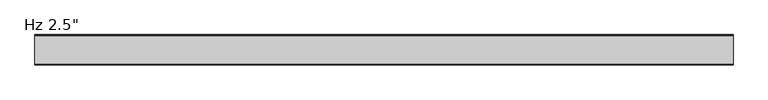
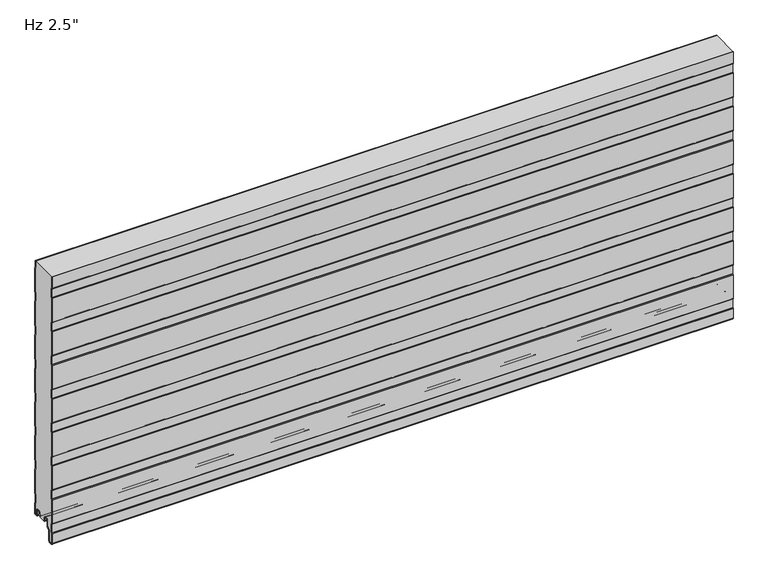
"""IFC4 building model written with IfcOpenShell, lengths in millimetres: plate geometry."""

from ifc_helpers import new_model, si_unit, point, frame, frame_2d, origin, place, context, project, spatial, polyline, circle_curve, trimmed, segment, composite_curve, outline, extrude, source, transform, mapped, element, save
from ifc_brep_helpers import plane_surface, cylinder_surface, revolved_surface, advanced_brep


def plate_57a42e4e(model_context):
    return source(origin(), model_context, "Body", "SolidModel", [
        advanced_brep(
        [(-730.0, -17.0015368, 2.0313088), (-730.0, -18.00154, 1.0313116), (-730.0, -19.0015314, 2.0313088), (-730.0, -19.0015314, 6.0315125), (-730.0, -18.0015368, 6.0315125), (-730.0, -18.0015368, 8.7237223), (-730.0, -14.7015411, 12.023718), (-730.0, -10.3015499, 12.023718), (-730.0, -7.0015544, 8.7237225), (-730.0, -7.0015544, -1.6962564), (-730.0, -5.2315602, -3.4662506), (-730.0, -1.0000126, -3.4662506), (-730.0, -1.0000126, 21.034026), (-730.0, -2.2002516, 22.4196686), (-730.0, -2.2002516, 41.7948349), (-730.0, -1.0000209, 43.1804679), (-730.0, -1.0000209, 97.2338833), (-730.0, -2.2002516, 98.6195162), (-730.0, -2.2002516, 117.9946825), (-730.0, -1.0000209, 119.3803155), (-730.0, -1.0000209, 173.4337309), (-730.0, -2.2002516, 174.8193638), (-730.0, -2.2002516, 194.1945301), (-730.0, -1.0000209, 195.5801631), (-730.0, -1.0000209, 249.6335785), (-730.0, -2.2002516, 251.0192114), (-730.0, -2.2002516, 270.3943777), (-730.0, -1.0000209, 271.7800107), (-730.0, -1.0000209, 325.8334261), (-730.0, -2.2002516, 327.219059), (-730.0, -2.2002516, 346.5942253), (-730.0, -1.0000209, 347.9798583), (-730.0, -1.0000209, 402.0332737), (-730.0, -2.2002516, 403.4189066), (-730.0, -2.2002516, 422.7940729), (-730.0, -1.0000209, 424.1797059), (-730.0, -1.0000209, 478.2331213), (-730.0, -2.2002516, 479.6187542), (-730.0, -2.2002516, 498.9939205), (-730.0, -1.0000209, 500.3795535), (-730.0, -1.0000209, 554.4329689), (-730.0, -2.2002516, 555.8186018), (-730.0, -2.2002516, 571.2), (-730.0, -1.2002516, 571.2), (-730.0, -1.2002516, 556.1914823), (-730.0, -0.3418094, 555.2004346), (-730.0, -2.09e-05, 554.2838177), (-730.0, -2.09e-05, 500.5287046), (-730.0, -0.3418094, 499.6120877), (-730.0, -1.2002516, 498.6210401), (-730.0, -1.2002516, 479.9916347), (-730.0, -0.3418094, 479.000587), (-730.0, -2.09e-05, 478.0839701), (-730.0, -2.09e-05, 424.328857), (-730.0, -0.3418094, 423.4122401), (-730.0, -1.2002516, 422.4211925), (-730.0, -1.2002516, 403.7917871), (-730.0, -0.3418094, 402.8007394), (-730.0, -2.09e-05, 401.8841225), (-730.0, -2.09e-05, 348.1290094), (-730.0, -0.3418094, 347.2123925), (-730.0, -1.2002516, 346.2213449), (-730.0, -1.2002516, 327.5919395), (-730.0, -0.3418094, 326.6008918), (-730.0, -2.09e-05, 325.6842749), (-730.0, -2.09e-05, 271.9291618), (-730.0, -0.3418094, 271.0125449), (-730.0, -1.2002516, 270.0214973), (-730.0, -1.2002516, 251.3920919), (-730.0, -0.3418094, 250.4010442), (-730.0, -2.09e-05, 249.4844273), (-730.0, -2.09e-05, 195.7293142), (-730.0, -0.3418094, 194.8126973), (-730.0, -1.2002516, 193.8216497), (-730.0, -1.2002516, 175.1922443), (-730.0, -0.3418094, 174.2011966), (-730.0, -2.09e-05, 173.2845797), (-730.0, -2.09e-05, 119.5294666), (-730.0, -0.3418094, 118.6128497), (-730.0, -1.2002516, 117.6218021), (-730.0, -1.2002516, 98.9923967), (-730.0, -0.3418094, 98.001349), (-730.0, -2.09e-05, 97.0847321), (-730.0, -2.09e-05, 43.329619), (-730.0, -0.3418094, 42.4130021), (-730.0, -1.2002516, 41.4219545), (-730.0, -1.2002516, 22.7925491), (-730.0, -0.3418094, 21.8015014), (-730.0, -2.09e-05, 20.8847931), (-730.0, -1.26e-05, -3.0662545), (-730.0, -1.4000087, -4.4662506), (-730.0, -5.2315602, -4.4662506), (-730.0, -8.0015544, -1.6962564), (-730.0, -8.0015544, 8.7237225), (-730.0, -10.3015499, 11.023718), (-730.0, -14.7015411, 11.023718), (-730.0, -17.0015368, 8.7237223), (730.0, -17.0015368, 2.0313088), (730.0, -17.0015368, 8.7237223), (730.0, -14.7015411, 11.023718), (730.0, -10.3015499, 11.023718), (730.0, -8.0015544, 8.7237225), (730.0, -8.0015544, -1.6962564), (730.0, -5.2315602, -4.4662506), (730.0, -1.4000087, -4.4662506), (730.0, -1.26e-05, -3.0662545), (730.0, -1.26e-05, 20.8848845), (730.0, -0.3418094, 21.8015014), (730.0, -1.2002516, 22.7925491), (730.0, -1.2002516, 41.4219545), (730.0, -0.3418094, 42.4130021), (730.0, -2.09e-05, 43.329619), (730.0, -2.09e-05, 97.0847321), (730.0, -0.3418094, 98.001349), (730.0, -1.2002516, 98.9923967), (730.0, -1.2002516, 117.6218021), (730.0, -0.3418094, 118.6128497), (730.0, -2.09e-05, 119.5294666), (730.0, -2.09e-05, 173.2845797), (730.0, -0.3418094, 174.2011966), (730.0, -1.2002516, 175.1922443), (730.0, -1.2002516, 193.8216497), (730.0, -0.3418094, 194.8126973), (730.0, -2.09e-05, 195.7293142), (730.0, -2.09e-05, 249.4844273), (730.0, -0.3418094, 250.4010442), (730.0, -1.2002516, 251.3920919), (730.0, -1.2002516, 270.0214973), (730.0, -0.3418094, 271.0125449), (730.0, -2.09e-05, 271.9291618), (730.0, -2.09e-05, 325.6842749), (730.0, -0.3418094, 326.6008918), (730.0, -1.2002516, 327.5919395), (730.0, -1.2002516, 346.2213449), (730.0, -0.3418094, 347.2123925), (730.0, -2.09e-05, 348.1290094), (730.0, -2.09e-05, 401.8841225), (730.0, -0.3418094, 402.8007394), (730.0, -1.2002516, 403.7917871), (730.0, -1.2002516, 422.4211925), (730.0, -0.3418094, 423.4122401), (730.0, -2.09e-05, 424.328857), (730.0, -2.09e-05, 478.0839701), (730.0, -0.3418094, 479.000587), (730.0, -1.2002516, 479.9916347), (730.0, -1.2002516, 498.6210401), (730.0, -0.3418094, 499.6120877), (730.0, -2.09e-05, 500.5287046), (730.0, -2.09e-05, 554.2838177), (730.0, -0.3418094, 555.2004346), (730.0, -1.2002516, 556.1914823), (730.0, -1.2002516, 571.2), (730.0, -2.2002516, 571.2), (730.0, -2.2002516, 555.8186018), (730.0, -1.0000209, 554.4329689), (730.0, -1.0000209, 500.3795535), (730.0, -2.2002516, 498.9939205), (730.0, -2.2002516, 479.6187542), (730.0, -1.0000209, 478.2331213), (730.0, -1.0000209, 424.1797059), (730.0, -2.2002516, 422.7940729), (730.0, -2.2002516, 403.4189066), (730.0, -1.0000209, 402.0332737), (730.0, -1.0000209, 347.9798583), (730.0, -2.2002516, 346.5942253), (730.0, -2.2002516, 327.219059), (730.0, -1.0000209, 325.8334261), (730.0, -1.0000209, 271.7800107), (730.0, -2.2002516, 270.3943777), (730.0, -2.2002516, 251.0192114), (730.0, -1.0000209, 249.6335785), (730.0, -1.0000209, 195.5801631), (730.0, -2.2002516, 194.1945301), (730.0, -2.2002516, 174.8193638), (730.0, -1.0000209, 173.4337309), (730.0, -1.0000209, 119.3803155), (730.0, -2.2002516, 117.9946825), (730.0, -2.2002516, 98.6195162), (730.0, -1.0000209, 97.2338833), (730.0, -1.0000209, 43.1804679), (730.0, -2.2002516, 41.7948349), (730.0, -2.2002516, 22.4196686), (730.0, -1.0000126, 21.034026), (730.0, -1.0000126, -3.4662506), (730.0, -5.2315602, -3.4662506), (730.0, -7.0015544, -1.6962564), (730.0, -7.0015544, 8.7237225), (730.0, -10.3015499, 12.023718), (730.0, -14.7015411, 12.023718), (730.0, -18.0015368, 8.7237223), (730.0, -18.0015368, 6.0315125), (730.0, -19.0015314, 6.0315125), (730.0, -19.0015314, 2.0313088), (730.0, -18.0015401, 1.0313116)],
        [
            (0, 1, circle_curve(frame((-730.0, -18.0015341, 2.0313088), z_axis=(-1.0, 0.0, 0.0), x_axis=(0.0, 0.0, 1.0)), 0.9999973)),
            (1, 2, circle_curve(frame((-730.0, -18.0015342, 2.0313088), z_axis=(-1.0, 0.0, 0.0), x_axis=(0.0, 0.0, 1.0)), 0.9999972)),
            (2, 3),
            (3, 4),
            (4, 5),
            (5, 6, circle_curve(frame((-730.0, -14.7015411, 8.7237223), z_axis=(-1.0, 0.0, 0.0), x_axis=(0.0, 0.0, 1.0)), 3.2999957)),
            (6, 7),
            (7, 8, circle_curve(frame((-730.0, -10.3015499, 8.7237225), z_axis=(-1.0, 0.0, 0.0), x_axis=(0.0, 0.0, 1.0)), 3.2999955)),
            (8, 9),
            (9, 10, circle_curve(frame((-730.0, -5.2315602, -1.6962564), z_axis=(1.0, 0.0, 0.0), x_axis=(0.0, 0.0, 1.0)), 1.7699942)),
            (10, 11),
            (11, 12),
            (12, 13),
            (13, 14),
            (14, 15),
            (15, 16),
            (16, 17),
            (17, 18),
            (18, 19),
            (19, 20),
            (20, 21),
            (21, 22),
            (22, 23),
            (23, 24),
            (24, 25),
            (25, 26),
            (26, 27),
            (27, 28),
            (28, 29),
            (29, 30),
            (30, 31),
            (31, 32),
            (32, 33),
            (33, 34),
            (34, 35),
            (35, 36),
            (36, 37),
            (37, 38),
            (38, 39),
            (39, 40),
            (40, 41),
            (41, 42),
            (42, 43),
            (43, 44),
            (44, 45),
            (45, 46, circle_curve(frame((-730.0, -1.4000181, 554.2838177), z_axis=(-1.0, 0.0, 0.0), x_axis=(0.0, 0.0, 1.0)), 1.3999972)),
            (46, 47),
            (47, 48, circle_curve(frame((-730.0, -1.4000181, 500.5287046), z_axis=(-1.0, 0.0, 0.0), x_axis=(0.0, 0.0, 1.0)), 1.3999972)),
            (48, 49),
            (49, 50),
            (50, 51),
            (51, 52, circle_curve(frame((-730.0, -1.4000181, 478.0839701), z_axis=(-1.0, 0.0, 0.0), x_axis=(0.0, 0.0, 1.0)), 1.3999972)),
            (52, 53),
            (53, 54, circle_curve(frame((-730.0, -1.4000181, 424.328857), z_axis=(-1.0, 0.0, 0.0), x_axis=(0.0, 0.0, 1.0)), 1.3999972)),
            (54, 55),
            (55, 56),
            (56, 57),
            (57, 58, circle_curve(frame((-730.0, -1.4000181, 401.8841225), z_axis=(-1.0, 0.0, 0.0), x_axis=(0.0, 0.0, 1.0)), 1.3999972)),
            (58, 59),
            (59, 60, circle_curve(frame((-730.0, -1.4000181, 348.1290094), z_axis=(-1.0, 0.0, 0.0), x_axis=(0.0, 0.0, 1.0)), 1.3999972)),
            (60, 61),
            (61, 62),
            (62, 63),
            (63, 64, circle_curve(frame((-730.0, -1.4000181, 325.6842749), z_axis=(-1.0, 0.0, 0.0), x_axis=(0.0, 0.0, 1.0)), 1.3999972)),
            (64, 65),
            (65, 66, circle_curve(frame((-730.0, -1.4000181, 271.9291618), z_axis=(-1.0, 0.0, 0.0), x_axis=(0.0, 0.0, 1.0)), 1.3999972)),
            (66, 67),
            (67, 68),
            (68, 69),
            (69, 70, circle_curve(frame((-730.0, -1.4000181, 249.4844273), z_axis=(-1.0, 0.0, 0.0), x_axis=(0.0, 0.0, 1.0)), 1.3999972)),
            (70, 71),
            (71, 72, circle_curve(frame((-730.0, -1.4000181, 195.7293142), z_axis=(-1.0, 0.0, 0.0), x_axis=(0.0, 0.0, 1.0)), 1.3999972)),
            (72, 73),
            (73, 74),
            (74, 75),
            (75, 76, circle_curve(frame((-730.0, -1.4000181, 173.2845797), z_axis=(-1.0, 0.0, 0.0), x_axis=(0.0, 0.0, 1.0)), 1.3999972)),
            (76, 77),
            (77, 78, circle_curve(frame((-730.0, -1.4000181, 119.5294666), z_axis=(-1.0, 0.0, 0.0), x_axis=(0.0, 0.0, 1.0)), 1.3999972)),
            (78, 79),
            (79, 80),
            (80, 81),
            (81, 82, circle_curve(frame((-730.0, -1.4000181, 97.0847321), z_axis=(-1.0, 0.0, 0.0), x_axis=(0.0, 0.0, 1.0)), 1.3999972)),
            (82, 83),
            (83, 84, circle_curve(frame((-730.0, -1.4000181, 43.329619), z_axis=(-1.0, 0.0, 0.0), x_axis=(0.0, 0.0, 1.0)), 1.3999972)),
            (84, 85),
            (85, 86),
            (86, 87),
            (87, 88, circle_curve(frame((-730.0, -1.4000181, 20.8848845), z_axis=(-1.0, 0.0, 0.0), x_axis=(0.0, 0.0, 1.0)), 1.3999972)),
            (88, 89),
            (89, 90, circle_curve(frame((-730.0, -1.4000087, -3.0662545), z_axis=(-1.0, 0.0, 0.0), x_axis=(0.0, 0.0, 1.0)), 1.3999962)),
            (90, 91),
            (91, 92, circle_curve(frame((-730.0, -5.2315602, -1.6962564), z_axis=(-1.0, 0.0, 0.0), x_axis=(0.0, 0.0, 1.0)), 2.7699942)),
            (92, 93),
            (93, 94, circle_curve(frame((-730.0, -10.3015499, 8.7237225), z_axis=(1.0, 0.0, 0.0), x_axis=(0.0, 0.0, 1.0)), 2.2999955)),
            (94, 95),
            (95, 96, circle_curve(frame((-730.0, -14.7015411, 8.7237223), z_axis=(1.0, 0.0, 0.0), x_axis=(0.0, 0.0, 1.0)), 2.2999957)),
            (96, 0),
            (97, 98),
            (98, 99, circle_curve(frame((730.0, -14.7015411, 8.7237223), z_axis=(-1.0, 0.0, 0.0), x_axis=(0.0, 0.0, 1.0)), 2.2999957)),
            (99, 100),
            (100, 101, circle_curve(frame((730.0, -10.3015499, 8.7237225), z_axis=(-1.0, 0.0, 0.0), x_axis=(0.0, 0.0, 1.0)), 2.2999955)),
            (101, 102),
            (102, 103, circle_curve(frame((730.0, -5.2315602, -1.6962564), z_axis=(1.0, 0.0, 0.0), x_axis=(0.0, 0.0, 1.0)), 2.7699942)),
            (103, 104),
            (104, 105, circle_curve(frame((730.0, -1.4000087, -3.0662545), z_axis=(1.0, 0.0, 0.0), x_axis=(0.0, 0.0, 1.0)), 1.3999962)),
            (105, 106),
            (106, 107, circle_curve(frame((730.0, -1.4000181, 20.8848845), z_axis=(1.0, 0.0, 0.0), x_axis=(0.0, 0.0, 1.0)), 1.3999972)),
            (107, 108),
            (108, 109),
            (109, 110),
            (110, 111, circle_curve(frame((730.0, -1.4000181, 43.329619), z_axis=(1.0, 0.0, 0.0), x_axis=(0.0, 0.0, 1.0)), 1.3999972)),
            (111, 112),
            (112, 113, circle_curve(frame((730.0, -1.4000181, 97.0847321), z_axis=(1.0, 0.0, 0.0), x_axis=(0.0, 0.0, 1.0)), 1.3999972)),
            (113, 114),
            (114, 115),
            (115, 116),
            (116, 117, circle_curve(frame((730.0, -1.4000181, 119.5294666), z_axis=(1.0, 0.0, 0.0), x_axis=(0.0, 0.0, 1.0)), 1.3999972)),
            (117, 118),
            (118, 119, circle_curve(frame((730.0, -1.4000181, 173.2845797), z_axis=(1.0, 0.0, 0.0), x_axis=(0.0, 0.0, 1.0)), 1.3999972)),
            (119, 120),
            (120, 121),
            (121, 122),
            (122, 123, circle_curve(frame((730.0, -1.4000181, 195.7293142), z_axis=(1.0, 0.0, 0.0), x_axis=(0.0, 0.0, 1.0)), 1.3999972)),
            (123, 124),
            (124, 125, circle_curve(frame((730.0, -1.4000181, 249.4844273), z_axis=(1.0, 0.0, 0.0), x_axis=(0.0, 0.0, 1.0)), 1.3999972)),
            (125, 126),
            (126, 127),
            (127, 128),
            (128, 129, circle_curve(frame((730.0, -1.4000181, 271.9291618), z_axis=(1.0, 0.0, 0.0), x_axis=(0.0, 0.0, 1.0)), 1.3999972)),
            (129, 130),
            (130, 131, circle_curve(frame((730.0, -1.4000181, 325.6842749), z_axis=(1.0, 0.0, 0.0), x_axis=(0.0, 0.0, 1.0)), 1.3999972)),
            (131, 132),
            (132, 133),
            (133, 134),
            (134, 135, circle_curve(frame((730.0, -1.4000181, 348.1290094), z_axis=(1.0, 0.0, 0.0), x_axis=(0.0, 0.0, 1.0)), 1.3999972)),
            (135, 136),
            (136, 137, circle_curve(frame((730.0, -1.4000181, 401.8841225), z_axis=(1.0, 0.0, 0.0), x_axis=(0.0, 0.0, 1.0)), 1.3999972)),
            (137, 138),
            (138, 139),
            (139, 140),
            (140, 141, circle_curve(frame((730.0, -1.4000181, 424.328857), z_axis=(1.0, 0.0, 0.0), x_axis=(0.0, 0.0, 1.0)), 1.3999972)),
            (141, 142),
            (142, 143, circle_curve(frame((730.0, -1.4000181, 478.0839701), z_axis=(1.0, 0.0, 0.0), x_axis=(0.0, 0.0, 1.0)), 1.3999972)),
            (143, 144),
            (144, 145),
            (145, 146),
            (146, 147, circle_curve(frame((730.0, -1.4000181, 500.5287046), z_axis=(1.0, 0.0, 0.0), x_axis=(0.0, 0.0, 1.0)), 1.3999972)),
            (147, 148),
            (148, 149, circle_curve(frame((730.0, -1.4000181, 554.2838177), z_axis=(1.0, 0.0, 0.0), x_axis=(0.0, 0.0, 1.0)), 1.3999972)),
            (149, 150),
            (150, 151),
            (151, 152),
            (152, 153),
            (153, 154),
            (154, 155),
            (155, 156),
            (156, 157),
            (157, 158),
            (158, 159),
            (159, 160),
            (160, 161),
            (161, 162),
            (162, 163),
            (163, 164),
            (164, 165),
            (165, 166),
            (166, 167),
            (167, 168),
            (168, 169),
            (169, 170),
            (170, 171),
            (171, 172),
            (172, 173),
            (173, 174),
            (174, 175),
            (175, 176),
            (176, 177),
            (177, 178),
            (178, 179),
            (179, 180),
            (180, 181),
            (181, 182),
            (182, 183),
            (183, 184),
            (184, 185, circle_curve(frame((730.0, -5.2315602, -1.6962564), z_axis=(-1.0, 0.0, 0.0), x_axis=(0.0, 0.0, 1.0)), 1.7699942)),
            (185, 186),
            (186, 187, circle_curve(frame((730.0, -10.3015499, 8.7237225), z_axis=(1.0, 0.0, 0.0), x_axis=(0.0, 0.0, 1.0)), 3.2999955)),
            (187, 188),
            (188, 189, circle_curve(frame((730.0, -14.7015411, 8.7237223), z_axis=(1.0, 0.0, 0.0), x_axis=(0.0, 0.0, 1.0)), 3.2999957)),
            (189, 190),
            (190, 191),
            (191, 192),
            (192, 193, circle_curve(frame((730.0, -18.0015342, 2.0313088), z_axis=(1.0, 0.0, 0.0), x_axis=(0.0, 0.0, 1.0)), 0.9999972)),
            (193, 97, circle_curve(frame((730.0, -18.0015341, 2.0313088), z_axis=(1.0, 0.0, 0.0), x_axis=(0.0, 0.0, 1.0)), 0.9999973)),
            (96, 98),
            (97, 0),
            (95, 99),
            (94, 100),
            (93, 101),
            (92, 102),
            (91, 103),
            (90, 104),
            (89, 105),
            (88, 106),
            (87, 107),
            (86, 108),
            (85, 109),
            (84, 110),
            (83, 111),
            (82, 112),
            (81, 113),
            (80, 114),
            (79, 115),
            (78, 116),
            (77, 117),
            (76, 118),
            (75, 119),
            (74, 120),
            (73, 121),
            (72, 122),
            (71, 123),
            (70, 124),
            (69, 125),
            (68, 126),
            (67, 127),
            (66, 128),
            (65, 129),
            (64, 130),
            (63, 131),
            (62, 132),
            (61, 133),
            (60, 134),
            (59, 135),
            (58, 136),
            (57, 137),
            (56, 138),
            (55, 139),
            (54, 140),
            (53, 141),
            (52, 142),
            (51, 143),
            (50, 144),
            (49, 145),
            (48, 146),
            (47, 147),
            (46, 148),
            (45, 149),
            (44, 150),
            (43, 151),
            (152, 42),
            (41, 153),
            (40, 154),
            (39, 155),
            (38, 156),
            (37, 157),
            (36, 158),
            (35, 159),
            (34, 160),
            (33, 161),
            (32, 162),
            (31, 163),
            (30, 164),
            (29, 165),
            (28, 166),
            (27, 167),
            (26, 168),
            (25, 169),
            (24, 170),
            (23, 171),
            (22, 172),
            (21, 173),
            (20, 174),
            (19, 175),
            (18, 176),
            (17, 177),
            (16, 178),
            (15, 179),
            (14, 180),
            (13, 181),
            (12, 182),
            (11, 183),
            (10, 184),
            (9, 185),
            (8, 186),
            (7, 187),
            (6, 188),
            (5, 189),
            (4, 190),
            (3, 191),
            (2, 192),
            (1, 193),
        ],
        [
            plane_surface(frame((-730.0, -2.09e-05, 457.2), z_axis=(-1.0, 0.0, 0.0), x_axis=(0.0, 1.0, 0.0))),
            plane_surface(frame((730.0, -2.09e-05, 457.2), z_axis=(1.0, 0.0, 0.0), x_axis=(0.0, 1.0, 0.0))),
            plane_surface(frame((-730.0, -17.0015368, 2.0313088), z_axis=(0.0, 1.0, 0.0), x_axis=(1.0, 0.0, 0.0))),
            revolved_surface(polyline([(730.0, -14.7015411, 11.023718), (-730.0, -14.7015411, 11.023718)]), (-730.0, -14.7015411, 8.7237223), (1.0, 0.0, 0.0)),
            plane_surface(frame((-730.0, -14.7015411, 11.023718), z_axis=(0.0, 0.0, -1.0), x_axis=(1.0, 0.0, 0.0))),
            revolved_surface(polyline([(730.0, -10.3015499, 11.023717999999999), (-730.0, -10.3015499, 11.023717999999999)]), (-730.0, -10.3015499, 8.7237225), (1.0, 0.0, 0.0)),
            plane_surface(frame((-730.0, -8.0015544, 8.7237225), z_axis=(0.0, -1.0, 0.0), x_axis=(1.0, 0.0, 0.0))),
            cylinder_surface(frame((-730.0, -5.2315602, -1.6962564), z_axis=(-1.0, 0.0, 0.0), x_axis=(0.0, 0.0, 1.0)), 2.7699942),
            plane_surface(frame((-730.0, -5.2315602, -4.4662506), z_axis=(0.0, 0.0, -1.0), x_axis=(1.0, 0.0, 0.0))),
            cylinder_surface(frame((-730.0, -1.4000087, -3.0662545), z_axis=(-1.0, 0.0, 0.0), x_axis=(0.0, 0.0, 1.0)), 1.3999962),
            plane_surface(frame((-730.0, -1.26e-05, -3.0662545), z_axis=(0.0, 1.0, 0.0), x_axis=(1.0, 0.0, 0.0))),
            cylinder_surface(frame((-730.0, -1.4000181, 20.8848845), z_axis=(-1.0, 0.0, 0.0), x_axis=(0.0, 0.0, 1.0)), 1.3999972),
            plane_surface(frame((-730.0, -0.3418094, 21.8015014), z_axis=(0.0, 0.755864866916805, 0.6547276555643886), x_axis=(1.0, 0.0, 0.0))),
            plane_surface(frame((-730.0, -1.2002516, 32.1072518), z_axis=(0.0, 1.0, 0.0), x_axis=(1.0, 0.0, 0.0))),
            plane_surface(frame((-730.0, -1.2002516, 41.4219545), z_axis=(0.0, 0.755864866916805, -0.6547276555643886), x_axis=(1.0, 0.0, 0.0))),
            cylinder_surface(frame((-730.0, -1.4000181, 43.329619), z_axis=(-1.0, 0.0, 0.0), x_axis=(0.0, 0.0, 1.0)), 1.3999972),
            plane_surface(frame((-730.0, -2.09e-05, 43.329619), z_axis=(0.0, 1.0, 0.0), x_axis=(1.0, 0.0, 0.0))),
            cylinder_surface(frame((-730.0, -1.4000181, 97.0847321), z_axis=(-1.0, 0.0, 0.0), x_axis=(0.0, 0.0, 1.0)), 1.3999972),
            plane_surface(frame((-730.0, -0.3418094, 98.001349), z_axis=(0.0, 0.755864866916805, 0.6547276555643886), x_axis=(1.0, 0.0, 0.0))),
            plane_surface(frame((-730.0, -1.2002516, 108.3070994), z_axis=(0.0, 1.0, 0.0), x_axis=(1.0, 0.0, 0.0))),
            plane_surface(frame((-730.0, -1.2002516, 117.6218021), z_axis=(0.0, 0.755864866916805, -0.6547276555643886), x_axis=(1.0, 0.0, 0.0))),
            cylinder_surface(frame((-730.0, -1.4000181, 119.5294666), z_axis=(-1.0, 0.0, 0.0), x_axis=(0.0, 0.0, 1.0)), 1.3999972),
            plane_surface(frame((-730.0, -2.09e-05, 119.5294666), z_axis=(0.0, 1.0, 0.0), x_axis=(1.0, 0.0, 0.0))),
            cylinder_surface(frame((-730.0, -1.4000181, 173.2845797), z_axis=(-1.0, 0.0, 0.0), x_axis=(0.0, 0.0, 1.0)), 1.3999972),
            plane_surface(frame((-730.0, -0.3418094, 174.2011966), z_axis=(0.0, 0.755864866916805, 0.6547276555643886), x_axis=(1.0, 0.0, 0.0))),
            plane_surface(frame((-730.0, -1.2002516, 184.506947), z_axis=(0.0, 1.0, 0.0), x_axis=(1.0, 0.0, 0.0))),
            plane_surface(frame((-730.0, -1.2002516, 193.8216497), z_axis=(0.0, 0.755864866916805, -0.6547276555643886), x_axis=(1.0, 0.0, 0.0))),
            cylinder_surface(frame((-730.0, -1.4000181, 195.7293142), z_axis=(-1.0, 0.0, 0.0), x_axis=(0.0, 0.0, 1.0)), 1.3999972),
            plane_surface(frame((-730.0, -2.09e-05, 195.7293142), z_axis=(0.0, 1.0, 0.0), x_axis=(1.0, 0.0, 0.0))),
            cylinder_surface(frame((-730.0, -1.4000181, 249.4844273), z_axis=(-1.0, 0.0, 0.0), x_axis=(0.0, 0.0, 1.0)), 1.3999972),
            plane_surface(frame((-730.0, -0.3418094, 250.4010442), z_axis=(0.0, 0.755864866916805, 0.6547276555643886), x_axis=(1.0, 0.0, 0.0))),
            plane_surface(frame((-730.0, -1.2002516, 260.7067946), z_axis=(0.0, 1.0, 0.0), x_axis=(1.0, 0.0, 0.0))),
            plane_surface(frame((-730.0, -1.2002516, 270.0214973), z_axis=(0.0, 0.755864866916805, -0.6547276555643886), x_axis=(1.0, 0.0, 0.0))),
            cylinder_surface(frame((-730.0, -1.4000181, 271.9291618), z_axis=(-1.0, 0.0, 0.0), x_axis=(0.0, 0.0, 1.0)), 1.3999972),
            plane_surface(frame((-730.0, -2.09e-05, 271.9291618), z_axis=(0.0, 1.0, 0.0), x_axis=(1.0, 0.0, 0.0))),
            cylinder_surface(frame((-730.0, -1.4000181, 325.6842749), z_axis=(-1.0, 0.0, 0.0), x_axis=(0.0, 0.0, 1.0)), 1.3999972),
            plane_surface(frame((-730.0, -0.3418094, 326.6008918), z_axis=(0.0, 0.755864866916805, 0.6547276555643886), x_axis=(1.0, 0.0, 0.0))),
            plane_surface(frame((-730.0, -1.2002516, 336.9066422), z_axis=(0.0, 1.0, 0.0), x_axis=(1.0, 0.0, 0.0))),
            plane_surface(frame((-730.0, -1.2002516, 346.2213449), z_axis=(0.0, 0.755864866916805, -0.6547276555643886), x_axis=(1.0, 0.0, 0.0))),
            cylinder_surface(frame((-730.0, -1.4000181, 348.1290094), z_axis=(-1.0, 0.0, 0.0), x_axis=(0.0, 0.0, 1.0)), 1.3999972),
            plane_surface(frame((-730.0, -2.09e-05, 348.1290094), z_axis=(0.0, 1.0, 0.0), x_axis=(1.0, 0.0, 0.0))),
            cylinder_surface(frame((-730.0, -1.4000181, 401.8841225), z_axis=(-1.0, 0.0, 0.0), x_axis=(0.0, 0.0, 1.0)), 1.3999972),
            plane_surface(frame((-730.0, -0.3418094, 402.8007394), z_axis=(0.0, 0.755864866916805, 0.6547276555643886), x_axis=(1.0, 0.0, 0.0))),
            plane_surface(frame((-730.0, -1.2002516, 413.1064898), z_axis=(0.0, 1.0, 0.0), x_axis=(1.0, 0.0, 0.0))),
            plane_surface(frame((-730.0, -1.2002516, 422.4211925), z_axis=(0.0, 0.755864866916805, -0.6547276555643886), x_axis=(1.0, 0.0, 0.0))),
            cylinder_surface(frame((-730.0, -1.4000181, 424.328857), z_axis=(-1.0, 0.0, 0.0), x_axis=(0.0, 0.0, 1.0)), 1.3999972),
            plane_surface(frame((-730.0, -2.09e-05, 424.328857), z_axis=(0.0, 1.0, 0.0), x_axis=(1.0, 0.0, 0.0))),
            cylinder_surface(frame((-730.0, -1.4000181, 478.0839701), z_axis=(-1.0, 0.0, 0.0), x_axis=(0.0, 0.0, 1.0)), 1.3999972),
            plane_surface(frame((-730.0, -0.3418094, 479.000587), z_axis=(0.0, 0.755864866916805, 0.6547276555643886), x_axis=(1.0, 0.0, 0.0))),
            plane_surface(frame((-730.0, -1.2002516, 489.3063374), z_axis=(0.0, 1.0, 0.0), x_axis=(1.0, 0.0, 0.0))),
            plane_surface(frame((-730.0, -1.2002516, 498.6210401), z_axis=(0.0, 0.755864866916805, -0.6547276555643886), x_axis=(1.0, 0.0, 0.0))),
            cylinder_surface(frame((-730.0, -1.4000181, 500.5287046), z_axis=(-1.0, 0.0, 0.0), x_axis=(0.0, 0.0, 1.0)), 1.3999972),
            plane_surface(frame((-730.0, -2.09e-05, 500.5287046), z_axis=(0.0, 1.0, 0.0), x_axis=(1.0, 0.0, 0.0))),
            cylinder_surface(frame((-730.0, -1.4000181, 554.2838177), z_axis=(-1.0, 0.0, 0.0), x_axis=(0.0, 0.0, 1.0)), 1.3999972),
            plane_surface(frame((-730.0, -0.3418094, 555.2004346), z_axis=(0.0, 0.755864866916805, 0.6547276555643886), x_axis=(1.0, 0.0, 0.0))),
            plane_surface(frame((-730.0, -1.2002516, 565.506185), z_axis=(0.0, 1.0, 0.0), x_axis=(1.0, 0.0, 0.0))),
            plane_surface(frame((-730.0, -2.2002516, 575.1937681), z_axis=(0.0, -1.0, 0.0), x_axis=(1.0, 0.0, 0.0))),
            plane_surface(frame((-730.0, -2.2002516, 555.8186018), z_axis=(0.0, -0.755864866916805, -0.6547276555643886), x_axis=(1.0, 0.0, 0.0))),
            plane_surface(frame((-730.0, -1.0000209, 554.4329689), z_axis=(0.0, -1.0, 0.0), x_axis=(1.0, 0.0, 0.0))),
            plane_surface(frame((-730.0, -1.0000209, 500.3795535), z_axis=(0.0, -0.755864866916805, 0.6547276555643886), x_axis=(1.0, 0.0, 0.0))),
            plane_surface(frame((-730.0, -2.2002516, 498.9939205), z_axis=(0.0, -1.0, 0.0), x_axis=(1.0, 0.0, 0.0))),
            plane_surface(frame((-730.0, -2.2002516, 479.6187542), z_axis=(0.0, -0.755864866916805, -0.6547276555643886), x_axis=(1.0, 0.0, 0.0))),
            plane_surface(frame((-730.0, -1.0000209, 478.2331213), z_axis=(0.0, -1.0, 0.0), x_axis=(1.0, 0.0, 0.0))),
            plane_surface(frame((-730.0, -1.0000209, 424.1797059), z_axis=(0.0, -0.755864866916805, 0.6547276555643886), x_axis=(1.0, 0.0, 0.0))),
            plane_surface(frame((-730.0, -2.2002516, 422.7940729), z_axis=(0.0, -1.0, 0.0), x_axis=(1.0, 0.0, 0.0))),
            plane_surface(frame((-730.0, -2.2002516, 403.4189066), z_axis=(0.0, -0.755864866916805, -0.6547276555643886), x_axis=(1.0, 0.0, 0.0))),
            plane_surface(frame((-730.0, -1.0000209, 402.0332737), z_axis=(0.0, -1.0, 0.0), x_axis=(1.0, 0.0, 0.0))),
            plane_surface(frame((-730.0, -1.0000209, 347.9798583), z_axis=(0.0, -0.755864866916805, 0.6547276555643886), x_axis=(1.0, 0.0, 0.0))),
            plane_surface(frame((-730.0, -2.2002516, 346.5942253), z_axis=(0.0, -1.0, 0.0), x_axis=(1.0, 0.0, 0.0))),
            plane_surface(frame((-730.0, -2.2002516, 327.219059), z_axis=(0.0, -0.755864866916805, -0.6547276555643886), x_axis=(1.0, 0.0, 0.0))),
            plane_surface(frame((-730.0, -1.0000209, 325.8334261), z_axis=(0.0, -1.0, 0.0), x_axis=(1.0, 0.0, 0.0))),
            plane_surface(frame((-730.0, -1.0000209, 271.7800107), z_axis=(0.0, -0.755864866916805, 0.6547276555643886), x_axis=(1.0, 0.0, 0.0))),
            plane_surface(frame((-730.0, -2.2002516, 270.3943777), z_axis=(0.0, -1.0, 0.0), x_axis=(1.0, 0.0, 0.0))),
            plane_surface(frame((-730.0, -2.2002516, 251.0192114), z_axis=(0.0, -0.755864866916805, -0.6547276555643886), x_axis=(1.0, 0.0, 0.0))),
            plane_surface(frame((-730.0, -1.0000209, 249.6335785), z_axis=(0.0, -1.0, 0.0), x_axis=(1.0, 0.0, 0.0))),
            plane_surface(frame((-730.0, -1.0000209, 195.5801631), z_axis=(0.0, -0.755864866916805, 0.6547276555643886), x_axis=(1.0, 0.0, 0.0))),
            plane_surface(frame((-730.0, -2.2002516, 194.1945301), z_axis=(0.0, -1.0, 0.0), x_axis=(1.0, 0.0, 0.0))),
            plane_surface(frame((-730.0, -2.2002516, 174.8193638), z_axis=(0.0, -0.755864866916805, -0.6547276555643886), x_axis=(1.0, 0.0, 0.0))),
            plane_surface(frame((-730.0, -1.0000209, 173.4337309), z_axis=(0.0, -1.0, 0.0), x_axis=(1.0, 0.0, 0.0))),
            plane_surface(frame((-730.0, -1.0000209, 119.3803155), z_axis=(0.0, -0.755864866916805, 0.6547276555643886), x_axis=(1.0, 0.0, 0.0))),
            plane_surface(frame((-730.0, -2.2002516, 117.9946825), z_axis=(0.0, -1.0, 0.0), x_axis=(1.0, 0.0, 0.0))),
            plane_surface(frame((-730.0, -2.2002516, 98.6195162), z_axis=(0.0, -0.755864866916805, -0.6547276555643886), x_axis=(1.0, 0.0, 0.0))),
            plane_surface(frame((-730.0, -1.0000209, 97.2338833), z_axis=(0.0, -1.0, 0.0), x_axis=(1.0, 0.0, 0.0))),
            plane_surface(frame((-730.0, -1.0000209, 43.1804679), z_axis=(0.0, -0.755864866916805, 0.6547276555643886), x_axis=(1.0, 0.0, 0.0))),
            plane_surface(frame((-730.0, -2.2002516, 41.7948349), z_axis=(0.0, -1.0, 0.0), x_axis=(1.0, 0.0, 0.0))),
            plane_surface(frame((-730.0, -2.2002516, 22.4196686), z_axis=(0.0, -0.755864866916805, -0.6547276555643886), x_axis=(1.0, 0.0, 0.0))),
            plane_surface(frame((-730.0, -1.0000126, 21.034026), z_axis=(0.0, -1.0, 0.0), x_axis=(1.0, 0.0, 0.0))),
            plane_surface(frame((-730.0, -1.0000126, -3.4662506), z_axis=(0.0, 0.0, 1.0), x_axis=(1.0, 0.0, 0.0))),
            revolved_surface(polyline([(730.0, -5.2315602, 0.07373779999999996), (-730.0, -5.2315602, 0.07373779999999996)]), (-730.0, -5.2315602, -1.6962564), (1.0, 0.0, 0.0)),
            plane_surface(frame((-730.0, -7.0015544, -1.6962564), z_axis=(0.0, 1.0, 0.0), x_axis=(1.0, 0.0, 0.0))),
            cylinder_surface(frame((-730.0, -10.3015499, 8.7237225), z_axis=(-1.0, 0.0, 0.0), x_axis=(0.0, 0.0, 1.0)), 3.2999955),
            plane_surface(frame((-730.0, -10.3015499, 12.023718), z_axis=(0.0, 0.0, 1.0), x_axis=(1.0, 0.0, 0.0))),
            cylinder_surface(frame((-730.0, -14.7015411, 8.7237223), z_axis=(-1.0, 0.0, 0.0), x_axis=(0.0, 0.0, 1.0)), 3.2999957),
            plane_surface(frame((-730.0, -18.0015368, 8.7237223), z_axis=(0.0, -1.0, 0.0), x_axis=(1.0, 0.0, 0.0))),
            plane_surface(frame((-730.0, -18.0015368, 6.0315125), z_axis=(0.0, 0.0, 1.0), x_axis=(1.0, 0.0, 0.0))),
            plane_surface(frame((-730.0, -19.0015314, 6.0315125), z_axis=(0.0, -1.0, 0.0), x_axis=(1.0, 0.0, 0.0))),
            cylinder_surface(frame((-730.0, -18.0015342, 2.0313088), z_axis=(-1.0, 0.0, 0.0), x_axis=(0.0, 0.0, 1.0)), 0.9999972),
            cylinder_surface(frame((-730.0, -18.0015341, 2.0313088), z_axis=(-1.0, 0.0, 0.0), x_axis=(0.0, 0.0, 1.0)), 0.9999973),
            plane_surface(frame((730.0, 9.9999791, 571.2), z_axis=(0.0, 0.0, 1.0), x_axis=(-1.0, 0.0, 0.0))),
        ],
        [
            (0, [[1, 2, 3, 4, 5, 6, 7, 8, 9, 10, 11, 12, 13, 14, 15, 16, 17, 18, 19, 20, 21, 22, 23, 24, 25, 26, 27, 28, 29, 30, 31, 32, 33, 34, 35, 36, 37, 38, 39, 40, 41, 42, 43, 44, 45, 46, 47, 48, 49, 50, 51, 52, 53, 54, 55, 56, 57, 58, 59, 60, 61, 62, 63, 64, 65, 66, 67, 68, 69, 70, 71, 72, 73, 74, 75, 76, 77, 78, 79, 80, 81, 82, 83, 84, 85, 86, 87, 88, 89, 90, 91, 92, 93, 94, 95, 96, 97]]),
            (1, [[98, 99, 100, 101, 102, 103, 104, 105, 106, 107, 108, 109, 110, 111, 112, 113, 114, 115, 116, 117, 118, 119, 120, 121, 122, 123, 124, 125, 126, 127, 128, 129, 130, 131, 132, 133, 134, 135, 136, 137, 138, 139, 140, 141, 142, 143, 144, 145, 146, 147, 148, 149, 150, 151, 152, 153, 154, 155, 156, 157, 158, 159, 160, 161, 162, 163, 164, 165, 166, 167, 168, 169, 170, 171, 172, 173, 174, 175, 176, 177, 178, 179, 180, 181, 182, 183, 184, 185, 186, 187, 188, 189, 190, 191, 192, 193, 194]]),
            (2, [[195, -98, 196, -97]]),
            (3, [[197, -99, -195, -96]]),
            (4, [[198, -100, -197, -95]]),
            (5, [[199, -101, -198, -94]]),
            (6, [[200, -102, -199, -93]]),
            (7, [[201, -103, -200, -92]]),
            (8, [[202, -104, -201, -91]]),
            (9, [[203, -105, -202, -90]]),
            (10, [[204, -106, -203, -89]]),
            (11, [[205, -107, -204, -88]]),
            (12, [[206, -108, -205, -87]]),
            (13, [[207, -109, -206, -86]]),
            (14, [[208, -110, -207, -85]]),
            (15, [[209, -111, -208, -84]]),
            (16, [[210, -112, -209, -83]]),
            (17, [[211, -113, -210, -82]]),
            (18, [[212, -114, -211, -81]]),
            (19, [[213, -115, -212, -80]]),
            (20, [[214, -116, -213, -79]]),
            (21, [[215, -117, -214, -78]]),
            (22, [[216, -118, -215, -77]]),
            (23, [[217, -119, -216, -76]]),
            (24, [[218, -120, -217, -75]]),
            (25, [[219, -121, -218, -74]]),
            (26, [[220, -122, -219, -73]]),
            (27, [[221, -123, -220, -72]]),
            (28, [[222, -124, -221, -71]]),
            (29, [[223, -125, -222, -70]]),
            (30, [[224, -126, -223, -69]]),
            (31, [[225, -127, -224, -68]]),
            (32, [[226, -128, -225, -67]]),
            (33, [[227, -129, -226, -66]]),
            (34, [[228, -130, -227, -65]]),
            (35, [[229, -131, -228, -64]]),
            (36, [[230, -132, -229, -63]]),
            (37, [[231, -133, -230, -62]]),
            (38, [[232, -134, -231, -61]]),
            (39, [[233, -135, -232, -60]]),
            (40, [[234, -136, -233, -59]]),
            (41, [[235, -137, -234, -58]]),
            (42, [[236, -138, -235, -57]]),
            (43, [[237, -139, -236, -56]]),
            (44, [[238, -140, -237, -55]]),
            (45, [[239, -141, -238, -54]]),
            (46, [[240, -142, -239, -53]]),
            (47, [[241, -143, -240, -52]]),
            (48, [[242, -144, -241, -51]]),
            (49, [[243, -145, -242, -50]]),
            (50, [[244, -146, -243, -49]]),
            (51, [[245, -147, -244, -48]]),
            (52, [[246, -148, -245, -47]]),
            (53, [[247, -149, -246, -46]]),
            (54, [[248, -150, -247, -45]]),
            (55, [[-44, 249, -151, -248]]),
            (56, [[-153, 250, -42, 251]]),
            (57, [[252, -154, -251, -41]]),
            (58, [[253, -155, -252, -40]]),
            (59, [[254, -156, -253, -39]]),
            (60, [[255, -157, -254, -38]]),
            (61, [[256, -158, -255, -37]]),
            (62, [[257, -159, -256, -36]]),
            (63, [[258, -160, -257, -35]]),
            (64, [[259, -161, -258, -34]]),
            (65, [[260, -162, -259, -33]]),
            (66, [[261, -163, -260, -32]]),
            (67, [[262, -164, -261, -31]]),
            (68, [[263, -165, -262, -30]]),
            (69, [[264, -166, -263, -29]]),
            (70, [[265, -167, -264, -28]]),
            (71, [[266, -168, -265, -27]]),
            (72, [[267, -169, -266, -26]]),
            (73, [[268, -170, -267, -25]]),
            (74, [[269, -171, -268, -24]]),
            (75, [[270, -172, -269, -23]]),
            (76, [[271, -173, -270, -22]]),
            (77, [[272, -174, -271, -21]]),
            (78, [[273, -175, -272, -20]]),
            (79, [[274, -176, -273, -19]]),
            (80, [[275, -177, -274, -18]]),
            (81, [[276, -178, -275, -17]]),
            (82, [[277, -179, -276, -16]]),
            (83, [[278, -180, -277, -15]]),
            (84, [[279, -181, -278, -14]]),
            (85, [[280, -182, -279, -13]]),
            (86, [[281, -183, -280, -12]]),
            (87, [[282, -184, -281, -11]]),
            (88, [[283, -185, -282, -10]]),
            (89, [[284, -186, -283, -9]]),
            (90, [[285, -187, -284, -8]]),
            (91, [[286, -188, -285, -7]]),
            (92, [[287, -189, -286, -6]]),
            (93, [[288, -190, -287, -5]]),
            (94, [[289, -191, -288, -4]]),
            (95, [[290, -192, -289, -3]]),
            (96, [[291, -193, -290, -2]]),
            (97, [[-196, -194, -291, -1]]),
            (98, [[-250, -152, -249, -43]]),
        ],
    ),
        extrude(outline(composite_curve([segment(trimmed(circle_curve(frame_2d((-62.0998926, -10.6415934)), 1.3998661), [point((-63.4997587, -10.6415934))], [point((-63.0325165, -9.5976403))], False, "CARTESIAN"), True, "CONTINUOUS"), segment(polyline([(-63.0325165, -9.5976403), (-62.2997902, -8.8649141), (-62.2997902, 10.0260713), (-63.0327558, 10.7590369)]), True, "CONTINUOUS"), segment(trimmed(circle_curve(frame_2d((-62.1000446, 11.8030877)), 1.3999972), [point((-63.0327558, 10.7590369))], [point((-63.5000209, 11.810741))], False, "CARTESIAN"), True, "CONTINUOUS"), segment(polyline([(-63.5000209, 11.810741), (-63.5000209, 65.5582542)]), True, "CONTINUOUS"), segment(trimmed(circle_curve(frame_2d((-62.1000237, 65.5582542)), 1.3999972), [point((-63.5000209, 65.5582542))], [point((-63.0327349, 66.602305))], False, "CARTESIAN"), True, "CONTINUOUS"), segment(polyline([(-63.0327349, 66.602305), (-62.2997902, 67.3352497), (-62.2997902, 86.2259189), (-63.0327558, 86.9588845)]), True, "CONTINUOUS"), segment(trimmed(circle_curve(frame_2d((-62.1000446, 88.0029353)), 1.3999972), [point((-63.0327558, 86.9588845))], [point((-63.5000209, 88.0105886))], False, "CARTESIAN"), True, "CONTINUOUS"), segment(polyline([(-63.5000209, 88.0105886), (-63.5000209, 141.7581018)]), True, "CONTINUOUS"), segment(trimmed(circle_curve(frame_2d((-62.1000237, 141.7581018)), 1.3999972), [point((-63.5000209, 141.7581018))], [point((-63.0327349, 142.8021526))], False, "CARTESIAN"), True, "CONTINUOUS"), segment(polyline([(-63.0327349, 142.8021526), (-62.2997902, 143.5350973), (-62.2997902, 162.4257665), (-63.0327558, 163.1587321)]), True, "CONTINUOUS"), segment(trimmed(circle_curve(frame_2d((-62.1000446, 164.2027829)), 1.3999972), [point((-63.0327558, 163.1587321))], [point((-63.5000209, 164.2104362))], False, "CARTESIAN"), True, "CONTINUOUS"), segment(polyline([(-63.5000209, 164.2104362), (-63.5000209, 217.9579494)]), True, "CONTINUOUS"), segment(trimmed(circle_curve(frame_2d((-62.1000237, 217.9579494)), 1.3999972), [point((-63.5000209, 217.9579494))], [point((-63.0327349, 219.0020002))], False, "CARTESIAN"), True, "CONTINUOUS"), segment(polyline([(-63.0327349, 219.0020002), (-62.2997902, 219.7349449), (-62.2997902, 238.6256141), (-63.0327558, 239.3585797)]), True, "CONTINUOUS"), segment(trimmed(circle_curve(frame_2d((-62.1000446, 240.4026305)), 1.3999972), [point((-63.0327558, 239.3585797))], [point((-63.5000209, 240.4102838))], False, "CARTESIAN"), True, "CONTINUOUS"), segment(polyline([(-63.5000209, 240.4102838), (-63.5000209, 294.157797)]), True, "CONTINUOUS"), segment(trimmed(circle_curve(frame_2d((-62.1000237, 294.157797)), 1.3999972), [point((-63.5000209, 294.157797))], [point((-63.0327349, 295.2018478))], False, "CARTESIAN"), True, "CONTINUOUS"), segment(polyline([(-63.0327349, 295.2018478), (-62.2997902, 295.9347925), (-62.2997902, 314.8254617), (-63.0327558, 315.5584273)]), True, "CONTINUOUS"), segment(trimmed(circle_curve(frame_2d((-62.1000446, 316.6024781)), 1.3999972), [point((-63.0327558, 315.5584273))], [point((-63.5000209, 316.6101314))], False, "CARTESIAN"), True, "CONTINUOUS"), segment(polyline([(-63.5000209, 316.6101314), (-63.5000209, 370.3576446)]), True, "CONTINUOUS"), segment(trimmed(circle_curve(frame_2d((-62.1000237, 370.3576446)), 1.3999972), [point((-63.5000209, 370.3576446))], [point((-63.0327349, 371.4016954))], False, "CARTESIAN"), True, "CONTINUOUS"), segment(polyline([(-63.0327349, 371.4016954), (-62.2997902, 372.1346401), (-62.2997902, 391.0253093), (-63.0327558, 391.7582749)]), True, "CONTINUOUS"), segment(trimmed(circle_curve(frame_2d((-62.1000446, 392.8023257)), 1.3999972), [point((-63.0327558, 391.7582749))], [point((-63.5000209, 392.809979))], False, "CARTESIAN"), True, "CONTINUOUS"), segment(polyline([(-63.5000209, 392.809979), (-63.5000209, 446.5574922)]), True, "CONTINUOUS"), segment(trimmed(circle_curve(frame_2d((-62.1000237, 446.5574922)), 1.3999972), [point((-63.5000209, 446.5574922))], [point((-63.0327349, 447.601543))], False, "CARTESIAN"), True, "CONTINUOUS"), segment(polyline([(-63.0327349, 447.601543), (-62.2997902, 448.3344877), (-62.2997902, 467.2251569), (-63.0327558, 467.9581225)]), True, "CONTINUOUS"), segment(trimmed(circle_curve(frame_2d((-62.1000446, 469.0021733)), 1.3999972), [point((-63.0327558, 467.9581225))], [point((-63.5000209, 469.0098266))], False, "CARTESIAN"), True, "CONTINUOUS"), segment(polyline([(-63.5000209, 469.0098266), (-63.5000209, 522.7573398)]), True, "CONTINUOUS"), segment(trimmed(circle_curve(frame_2d((-62.1000237, 522.7573398)), 1.3999972), [point((-63.5000209, 522.7573398))], [point((-63.0327349, 523.8013906))], False, "CARTESIAN"), True, "CONTINUOUS"), segment(polyline([(-63.0327349, 523.8013906), (-62.2997902, 524.5343353), (-62.2997902, 543.4250045), (-63.0327558, 544.1579701)]), True, "CONTINUOUS"), segment(trimmed(circle_curve(frame_2d((-62.1000446, 545.2020209)), 1.3999972), [point((-63.0327558, 544.1579701))], [point((-63.5000209, 545.2096742))], False, "CARTESIAN"), True, "CONTINUOUS"), segment(polyline([(-63.5000209, 545.2096742), (-63.5000209, 571.2), (-62.5000209, 571.2), (-62.5000209, 545.0405554), (-61.2997902, 543.8403247), (-61.2997902, 524.1209122), (-62.5000209, 522.9206815), (-62.5000209, 468.8405497), (-61.2997902, 467.640319), (-61.2997902, 447.9209065), (-62.5000209, 446.7206758), (-62.5000209, 392.640544), (-61.2997902, 391.4403133), (-61.2997902, 371.7209008), (-62.5000209, 370.5206701), (-62.5000209, 316.4405383), (-61.2997902, 315.2403076), (-61.2997902, 295.5208951), (-62.5000209, 294.3206644), (-62.5000209, 240.2405326), (-61.2997902, 239.0403019), (-61.2997902, 219.3208894), (-62.5000209, 218.1206587), (-62.5000209, 164.0405269), (-61.2997902, 162.8402962), (-61.2997902, 143.1208837), (-62.5000209, 141.920653), (-62.5000209, 87.8405213), (-61.2997902, 86.6402905), (-61.2997902, 66.920878), (-62.5000209, 65.7206473), (-62.5000209, 11.6405156), (-61.2997902, 10.4402849), (-61.2997902, -9.2791277), (-62.4997587, -10.4790962), (-62.4997587, -32.4521176)]), True, "CONTINUOUS"), segment(trimmed(circle_curve(frame_2d((-59.9295195, -32.4521176)), 2.5702393), [point((-62.4997587, -32.4521176))], [point((-59.7054338, -35.0125699))], True, "CARTESIAN"), True, "CONTINUOUS"), segment(polyline([(-59.7054338, -35.0125699), (-54.7236129, -34.5765709)]), True, "CONTINUOUS"), segment(trimmed(circle_curve(frame_2d((-55.2050035, -31.9198392)), 2.6999926), [point((-54.7236129, -34.5765709))], [point((-52.5050109, -31.9198392))], True, "CARTESIAN"), True, "CONTINUOUS"), segment(polyline([(-52.5050109, -31.9198392), (-52.5050109, -9.8247096), (-47.0029398, -4.3226385)]), True, "CONTINUOUS"), segment(trimmed(circle_curve(frame_2d((-48.2050175, -3.1205608)), 1.6999946), [point((-47.0029398, -4.3226385))], [point((-46.5050229, -3.1205608))], True, "CARTESIAN"), True, "CONTINUOUS"), segment(polyline([(-46.5050229, -3.1205608), (-46.5050229, 8.6903283)]), True, "CONTINUOUS"), segment(trimmed(circle_curve(frame_2d((-43.1550276, 8.6903283)), 3.3499953), [point((-46.5050229, 8.6903283))], [point((-43.1550276, 12.0403236))], False, "CARTESIAN"), True, "CONTINUOUS"), segment(polyline([(-43.1550276, 12.0403236), (-38.7550364, 12.0403236)]), True, "CONTINUOUS"), segment(trimmed(circle_curve(frame_2d((-38.7550364, 8.6903283)), 3.3499953), [point((-38.7550364, 12.0403236))], [point((-35.4050411, 8.6903283))], False, "CARTESIAN"), True, "CONTINUOUS"), segment(polyline([(-35.4050411, 8.6903283), (-35.4050411, 5.9912173), (-34.0065623, 5.9912173), (-34.0065623, 2.2328239)]), True, "CONTINUOUS"), segment(trimmed(circle_curve(frame_2d((-35.2065589, 2.2313092)), 1.1999976), [point((-34.0065623, 2.2328239))], [point((-35.176037, 1.0316999))], False, "CARTESIAN"), True, "CONTINUOUS"), segment(trimmed(circle_curve(frame_2d((-35.2065589, 2.2313092)), 1.1999976), [point((-35.176037, 1.0316999))], [point((-36.4050411, 2.1710221))], False, "CARTESIAN"), True, "CONTINUOUS"), segment(polyline([(-36.4050411, 2.1710221), (-36.4050411, 8.6903283)]), True, "CONTINUOUS"), segment(trimmed(circle_curve(frame_2d((-38.7550364, 8.6903283)), 2.3499953), [point((-36.4050411, 8.6903283))], [point((-38.7550364, 11.0403236))], True, "CARTESIAN"), True, "CONTINUOUS"), segment(polyline([(-38.7550364, 11.0403236), (-43.1550276, 11.0403236)]), True, "CONTINUOUS"), segment(trimmed(circle_curve(frame_2d((-43.1550276, 8.6903283)), 2.3499953), [point((-43.1550276, 11.0403236))], [point((-45.5050229, 8.6903283))], True, "CARTESIAN"), True, "CONTINUOUS"), segment(polyline([(-45.5050229, 8.6903283), (-45.5050229, -3.1205608)]), True, "CONTINUOUS"), segment(trimmed(circle_curve(frame_2d((-48.2050175, -3.1205608)), 2.6999946), [point((-45.5050229, -3.1205608))], [point((-46.2958331, -5.0297453))], False, "CARTESIAN"), True, "CONTINUOUS"), segment(polyline([(-46.2958331, -5.0297453), (-51.1242505, -9.8581627)]), True, "CONTINUOUS"), segment(trimmed(circle_curve(frame_2d((-50.2050135, -10.7773997)), 1.2999974), [point((-51.1242505, -9.8581627))], [point((-51.5050109, -10.7773997))], True, "CARTESIAN"), True, "CONTINUOUS"), segment(polyline([(-51.5050109, -10.7773997), (-51.5050109, -31.9198392)]), True, "CONTINUOUS"), segment(trimmed(circle_curve(frame_2d((-55.2050035, -31.9198392)), 3.6999926), [point((-51.5050109, -31.9198392))], [point((-54.5942024, -35.5690675))], False, "CARTESIAN"), True, "CONTINUOUS"), segment(polyline([(-54.5942024, -35.5690675), (-59.6182491, -36.008762)]), True, "CONTINUOUS"), segment(trimmed(circle_curve(frame_2d((-59.9295195, -32.4521176)), 3.5702393), [point((-59.6182491, -36.008762))], [point((-63.4997587, -32.4521176))], False, "CARTESIAN"), True, "CONTINUOUS"), segment(polyline([(-63.4997587, -32.4521176), (-63.4997587, -10.6415934)]), True, "CONTINUOUS")], self_intersect=False)), frame((-730.0, 0.0, 0.0), z_axis=(1.0, 0.0, 0.0), x_axis=(0.0, 1.0, 0.0)), (0.0, 0.0, 1.0), 1460.0),
        extrude(outline(composite_curve([segment(trimmed(circle_curve(frame_2d((-35.2065589, 2.2313092)), 1.1999976), [point((-35.176037, 1.0316999))], [point((-34.0065623, 2.2328239))], True, "CARTESIAN"), True, "CONTINUOUS"), segment(polyline([(-34.0065623, 2.2328239), (-34.0065623, 5.9912173), (-35.4050411, 5.9912173), (-35.4050411, 8.6903283)]), True, "CONTINUOUS"), segment(trimmed(circle_curve(frame_2d((-38.7550364, 8.6903283)), 3.3499953), [point((-35.4050411, 8.6903283))], [point((-38.7550364, 12.0403236))], True, "CARTESIAN"), True, "CONTINUOUS"), segment(polyline([(-38.7550364, 12.0403236), (-43.1550276, 12.0403236)]), True, "CONTINUOUS"), segment(trimmed(circle_curve(frame_2d((-43.1550276, 8.6903283)), 3.3499953), [point((-43.1550276, 12.0403236))], [point((-46.5050229, 8.6903283))], True, "CARTESIAN"), True, "CONTINUOUS"), segment(polyline([(-46.5050229, 8.6903283), (-46.5050229, -3.1205608)]), True, "CONTINUOUS"), segment(trimmed(circle_curve(frame_2d((-48.2050175, -3.1205608)), 1.6999946), [point((-46.5050229, -3.1205608))], [point((-47.0029398, -4.3226385))], False, "CARTESIAN"), True, "CONTINUOUS"), segment(polyline([(-47.0029398, -4.3226385), (-52.5050109, -9.8247096), (-52.5050109, -31.9198392)]), True, "CONTINUOUS"), segment(trimmed(circle_curve(frame_2d((-55.2050035, -31.9198392)), 2.6999926), [point((-52.5050109, -31.9198392))], [point((-54.7236129, -34.5765709))], False, "CARTESIAN"), True, "CONTINUOUS"), segment(polyline([(-54.7236129, -34.5765709), (-59.7054338, -35.0125699)]), True, "CONTINUOUS"), segment(trimmed(circle_curve(frame_2d((-59.9295195, -32.4521176)), 2.5702393), [point((-59.7054338, -35.0125699))], [point((-62.4997587, -32.4521176))], False, "CARTESIAN"), True, "CONTINUOUS"), segment(polyline([(-62.4997587, -32.4521176), (-62.4997587, -10.4790962), (-61.2997902, -9.2791277), (-61.2997902, 10.4402849), (-62.5000209, 11.6405156), (-62.5000209, 65.7206473), (-61.2997902, 66.920878), (-61.2997902, 86.6402905), (-62.5000209, 87.8405213), (-62.5000209, 141.920653), (-61.2997902, 143.1208837), (-61.2997902, 162.8402962), (-62.5000209, 164.0405269), (-62.5000209, 218.1206587), (-61.2997902, 219.3208894), (-61.2997902, 239.0403019), (-62.5000209, 240.2405326), (-62.5000209, 294.3206644), (-61.2997902, 295.5208951), (-61.2997902, 315.2403076), (-62.5000209, 316.4405383), (-62.5000209, 370.5206701), (-61.2997902, 371.7209008), (-61.2997902, 391.4403133), (-62.5000209, 392.640544), (-62.5000209, 446.7206758), (-61.2997902, 447.9209065), (-61.2997902, 467.640319), (-62.5000209, 468.8405497), (-62.5000209, 522.9206815), (-61.2997902, 524.1209122), (-61.2997902, 543.8403247), (-62.5000209, 545.0405554), (-62.5000209, 571.2), (-2.2002516, 571.2), (-2.2002516, 555.8186019), (-1.0000209, 554.4329689), (-1.0000209, 500.3795535), (-2.2002516, 498.9939206), (-2.2002516, 479.6187543), (-1.0000209, 478.2331213), (-1.0000209, 424.1797059), (-2.2002516, 422.794073), (-2.2002516, 403.4189067), (-1.0000209, 402.0332737), (-1.0000209, 347.9798583), (-2.2002516, 346.5942254), (-2.2002516, 327.2190591), (-1.0000209, 325.8334261), (-1.0000209, 271.7800107), (-2.2002516, 270.3943778), (-2.2002516, 251.0192115), (-1.0000209, 249.6335785), (-1.0000209, 195.5801631), (-2.2002516, 194.1945302), (-2.2002516, 174.8193639), (-1.0000209, 173.4337309), (-1.0000209, 119.3803155), (-2.2002516, 117.9946826), (-2.2002516, 98.6195163), (-1.0000209, 97.2338833), (-1.0000209, 43.1804679), (-2.2002516, 41.794835), (-2.2002516, 22.4196687), (-1.0000126, 21.034026), (-1.0000126, -3.4662506), (-5.2315599, -3.4662506)]), True, "CONTINUOUS"), segment(trimmed(circle_curve(frame_2d((-5.2315599, -1.6962564)), 1.7699942), [point((-5.2315599, -3.4662506))], [point((-7.001554, -1.6962564))], False, "CARTESIAN"), True, "CONTINUOUS"), segment(polyline([(-7.001554, -1.6962564), (-7.001554, 8.7237222)]), True, "CONTINUOUS"), segment(trimmed(circle_curve(frame_2d((-10.3015499, 8.7237222)), 3.2999959), [point((-7.001554, 8.7237222))], [point((-10.3015499, 12.023718))], True, "CARTESIAN"), True, "CONTINUOUS"), segment(polyline([(-10.3015499, 12.023718), (-14.7015411, 12.023718)]), True, "CONTINUOUS"), segment(trimmed(circle_curve(frame_2d((-14.7015411, 8.7237223)), 3.2999957), [point((-14.7015411, 12.023718))], [point((-18.0015368, 8.7237223))], True, "CARTESIAN"), True, "CONTINUOUS"), segment(polyline([(-18.0015368, 8.7237223), (-18.0015368, 6.0315125), (-19.0015314, 6.0315125), (-19.0015314, 2.0313089)]), True, "CONTINUOUS"), segment(trimmed(circle_curve(frame_2d((-18.0015342, 2.0313089)), 0.9999972), [point((-19.0015314, 2.0313089))], [point((-18.0015401, 1.0313117))], True, "CARTESIAN"), True, "CONTINUOUS"), segment(polyline([(-18.0015401, 1.0313117), (-19.0328517, 0.0), (-34.1443371, 0.0), (-35.176037, 1.0316999)]), True, "CONTINUOUS")], self_intersect=False)), frame((-730.0, 0.0, 0.0), z_axis=(1.0, 0.0, 0.0), x_axis=(0.0, 1.0, 0.0)), (0.0, 0.0, 1.0), 1460.0),
    ])


if __name__ == "__main__":
    model = new_model("IFC4")
    model_context = context("Model", 3, world=origin())
    ifc_project = project(units=[si_unit("LENGTHUNIT", "METRE", prefix="MILLI")], contexts=[model_context])
    site = spatial("IfcSite", under=ifc_project)
    building = spatial("IfcBuilding", under=site)
    placement = place(None, origin())
    plate_shape = plate_57a42e4e(model_context)
    element("IfcPlate", 1, ObjectType="KIP-36-Karrier-KP-R19-CP-Hz-SL3-8in_SL : Hz 2.5\"", at=placement, inside=building, context=model_context, shape_type="MappedRepresentation", body=[
        mapped(plate_shape, transform((0.0, 0.0, 0.0), x_axis=(1.0, 0.0, 0.0), y_axis=(0.0, 1.0, 0.0), z_axis=(0.0, 0.0, 1.0))),
    ])
    save(model, "model.ifc")
